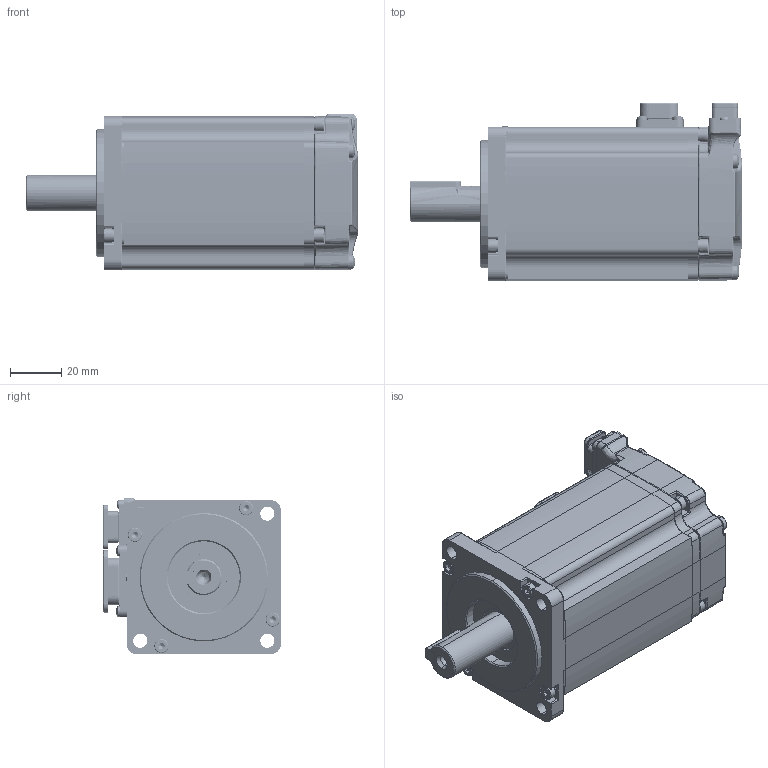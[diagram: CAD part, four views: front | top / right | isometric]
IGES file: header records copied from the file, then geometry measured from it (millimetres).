
Start section: SolidWorks IGES file using analytic representation for surfaces
Global section: file name: Z:\Products\Servo\08.2024\UNITRONICS\B5\UMM-0004BA-B5.IGS; native system: SolidWorks 2022; preprocessor: SolidWorks 2022; author: OfirZ; date: 240820.125749; units: millimetre
Bounding box: 129.3 x 69.2 x 60.92 mm (x, y, z)
Surface area: 78987.4 mm2 (no closed solid volume)
Topology: 0 solids, 0 shells, 2627 faces, 24731 edges, 24667 vertices
Faces by surface type: bspline 1625, revolution 1002
